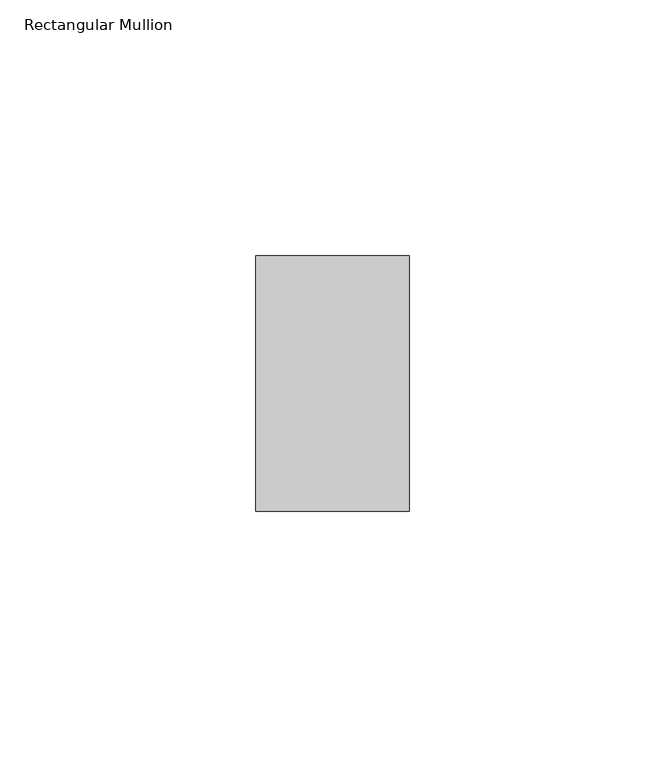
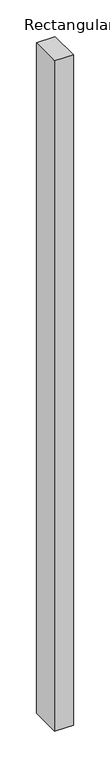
"""IFC4 building model written with IfcOpenShell, lengths in millimetres: member geometry, Rectangular Mullion : ARQ_TV_MULL_50x30mm."""

from ifc_helpers import new_model, si_unit, frame, origin, place, context, project, spatial, polyline, outline, extrude, source, transform, mapped, element, save


def rectangular_mullion_c34d28c6(model_context):
    return source(origin(), model_context, "Body", "SweptSolid", [
        extrude(outline(polyline([(15.0, 25.0), (15.0, -25.0), (-15.0, -25.0), (-15.0, 25.0), (15.0, 25.0)])), frame((0.0, 0.0, -1121.2405904), z_axis=(0.0, 0.0, 1.0), x_axis=(1.0, 0.0, 0.0)), (0.0, 0.0, 1.0), 1121.2405904),
    ])


if __name__ == "__main__":
    model = new_model("IFC4")
    model_context = context("Model", 3, world=origin())
    ifc_project = project(units=[si_unit("LENGTHUNIT", "METRE", prefix="MILLI")], contexts=[model_context])
    site = spatial("IfcSite", under=ifc_project)
    building = spatial("IfcBuilding", under=site)
    placement = place(None, origin())
    rectangular_mullion_shape = rectangular_mullion_c34d28c6(model_context)
    element("IfcMember", 1, ObjectType="Rectangular Mullion : ARQ_TV_MULL_50x30mm", at=placement, inside=building, context=model_context, shape_type="MappedRepresentation", body=[
        mapped(rectangular_mullion_shape, transform((0.0, 0.0, 0.0), x_axis=(1.0, 0.0, 0.0), y_axis=(0.0, 1.0, 0.0), z_axis=(0.0, 0.0, 1.0))),
    ])
    save(model, "model.ifc")
